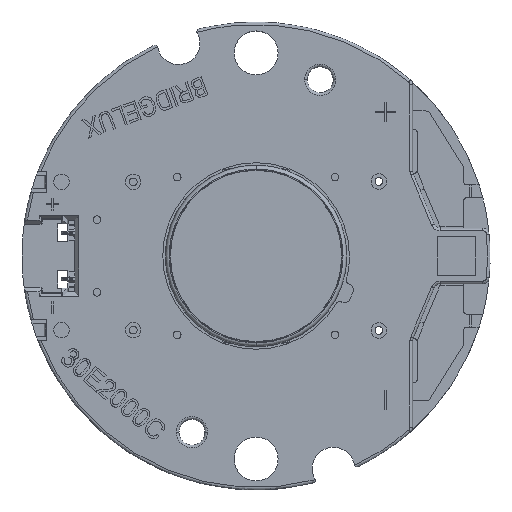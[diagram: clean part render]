
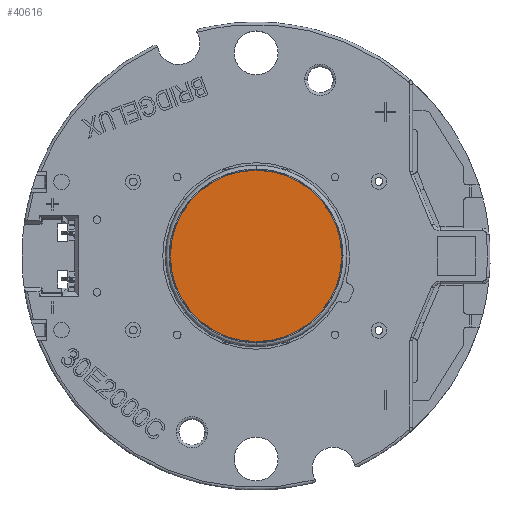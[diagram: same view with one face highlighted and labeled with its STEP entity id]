
A CAD part, top view. The second image highlights one B-rep face of the part: STEP entity #40616.
In plain terms, the highlighted planar face has unit normal (0, 0, 1).
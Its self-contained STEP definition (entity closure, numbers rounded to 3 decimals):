
#52 = DIRECTION ( 'NONE',  ( 0., -1., 0. ) ) ;
#3600 = CIRCLE ( 'NONE', #6539, 6.625 ) ;
#6539 = AXIS2_PLACEMENT_3D ( 'NONE', #56126, #28013, #52 ) ;
#7229 = EDGE_CURVE ( 'NONE', #18624, #53393, #40620, .T. ) ;
#11808 = CARTESIAN_POINT ( 'NONE',  ( -0.186, -0.645, 39.829 ) ) ;
#12126 = ORIENTED_EDGE ( 'NONE', *, *, #7229, .T. ) ;
#12663 = CARTESIAN_POINT ( 'NONE',  ( -0.186, -0.645, 39.829 ) ) ;
#12951 = EDGE_CURVE ( 'NONE', #53393, #18624, #3600, .T. ) ;
#14169 = AXIS2_PLACEMENT_3D ( 'NONE', #12663, #45381, #17342 ) ;
#15693 = FACE_OUTER_BOUND ( 'NONE', #57756, .T. ) ;
#16526 = DIRECTION ( 'NONE',  ( 0., -1., 0. ) ) ;
#17342 = DIRECTION ( 'NONE',  ( 0., -1., 0. ) ) ;
#18624 = VERTEX_POINT ( 'NONE', #31890 ) ;
#25666 = CARTESIAN_POINT ( 'NONE',  ( -0.186, -7.27, 39.829 ) ) ;
#28013 = DIRECTION ( 'NONE',  ( 0., 0., 1. ) ) ;
#31890 = CARTESIAN_POINT ( 'NONE',  ( -0.186, 5.98, 39.829 ) ) ;
#38421 = ORIENTED_EDGE ( 'NONE', *, *, #12951, .T. ) ;
#39657 = PLANE ( 'NONE',  #60649 ) ;
#40616 = ADVANCED_FACE ( 'NONE', ( #15693 ), #39657, .T. ) ;
#40620 = CIRCLE ( 'NONE', #14169, 6.625 ) ;
#44564 = DIRECTION ( 'NONE',  ( 0., 0., 1. ) ) ;
#45381 = DIRECTION ( 'NONE',  ( 0., 0., 1. ) ) ;
#53393 = VERTEX_POINT ( 'NONE', #25666 ) ;
#56126 = CARTESIAN_POINT ( 'NONE',  ( -0.186, -0.645, 39.829 ) ) ;
#57756 = EDGE_LOOP ( 'NONE', ( #12126, #38421 ) ) ;
#60649 = AXIS2_PLACEMENT_3D ( 'NONE', #11808, #44564, #16526 ) ;
